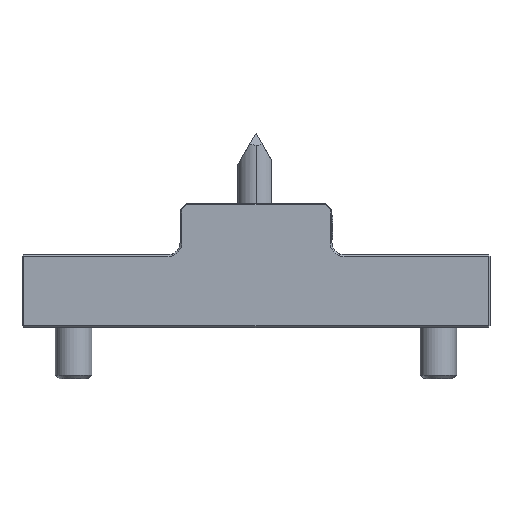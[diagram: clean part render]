
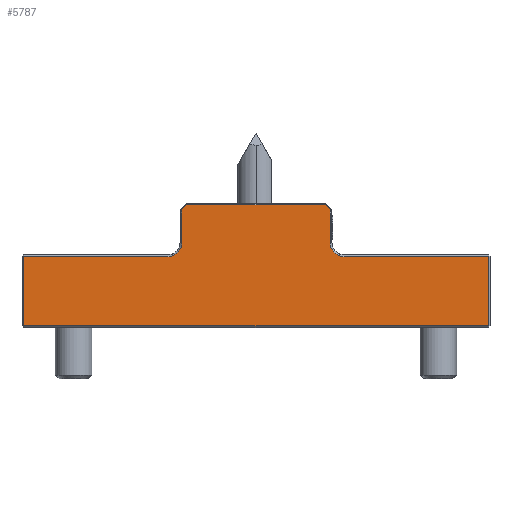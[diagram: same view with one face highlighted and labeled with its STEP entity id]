
A CAD part, front view. The second image highlights one B-rep face of the part: STEP entity #5787.
In plain terms, the highlighted planar face has unit normal (0, -1, 0).
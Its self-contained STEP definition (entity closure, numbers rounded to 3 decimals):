
#13 = AXIS2_PLACEMENT_3D ( 'NONE', #4653, #4654, #4655 ) ;
#16 = VECTOR ( 'NONE', #4613, 1000. ) ;
#40 = VECTOR ( 'NONE', #4610, 1000. ) ;
#55 = VECTOR ( 'NONE', #4578, 1000. ) ;
#65 = VECTOR ( 'NONE', #4603, 1000. ) ;
#74 = VECTOR ( 'NONE', #4686, 1000. ) ;
#77 = VECTOR ( 'NONE', #4689, 1000. ) ;
#81 = VECTOR ( 'NONE', #4676, 1000. ) ;
#84 = CIRCLE ( 'NONE', #13, 2.3 ) ;
#93 = AXIS2_PLACEMENT_3D ( 'NONE', #4732, #4733, #4734 ) ;
#95 = CIRCLE ( 'NONE', #93, 2.3 ) ;
#158 = ORIENTED_EDGE ( 'NONE', *, *, #4934, .T. ) ;
#165 = ORIENTED_EDGE ( 'NONE', *, *, #4933, .T. ) ;
#170 = ORIENTED_EDGE ( 'NONE', *, *, #4947, .T. ) ;
#207 = ORIENTED_EDGE ( 'NONE', *, *, #4950, .T. ) ;
#227 = ORIENTED_EDGE ( 'NONE', *, *, #5890, .T. ) ;
#245 = ORIENTED_EDGE ( 'NONE', *, *, #4931, .T. ) ;
#249 = ORIENTED_EDGE ( 'NONE', *, *, #4965, .T. ) ;
#251 = ORIENTED_EDGE ( 'NONE', *, *, #5887, .T. ) ;
#262 = EDGE_LOOP ( 'NONE', ( #249, #170, #245, #158, #251, #165, #284, #227, #5601, #264, #207, #322 ) ) ;
#264 = ORIENTED_EDGE ( 'NONE', *, *, #4922, .T. ) ;
#284 = ORIENTED_EDGE ( 'NONE', *, *, #4943, .T. ) ;
#322 = ORIENTED_EDGE ( 'NONE', *, *, #4951, .T. ) ;
#897 = CARTESIAN_POINT ( 'NONE',  ( -38.5, -13., 20.5 ) ) ;
#905 = FACE_OUTER_BOUND ( 'NONE', #262, .T. ) ;
#906 = PLANE ( 'NONE',  #5321 ) ;
#908 = DIRECTION ( 'NONE',  ( 0., 1., 0. ) ) ;
#909 = DIRECTION ( 'NONE',  ( 0., 0., 1. ) ) ;
#1366 = LINE ( 'NONE', #1367, #5570 ) ;
#1367 = CARTESIAN_POINT ( 'NONE',  ( -12.288, -13., 19.288 ) ) ;
#1368 = DIRECTION ( 'NONE',  ( -0.707, 0., -0.707 ) ) ;
#1369 = CARTESIAN_POINT ( 'NONE',  ( -38.5, -13., 11.7 ) ) ;
#1370 = LINE ( 'NONE', #1369, #5573 ) ;
#1378 = DIRECTION ( 'NONE',  ( -1., 0., 0. ) ) ;
#1395 = LINE ( 'NONE', #1396, #5581 ) ;
#1396 = CARTESIAN_POINT ( 'NONE',  ( -38.2, -13., 20.5 ) ) ;
#1397 = DIRECTION ( 'NONE',  ( 0., 0., -1. ) ) ;
#1794 = VERTEX_POINT ( 'NONE', #4277 ) ;
#1802 = VERTEX_POINT ( 'NONE', #4280 ) ;
#1825 = VERTEX_POINT ( 'NONE', #4292 ) ;
#1826 = VERTEX_POINT ( 'NONE', #4286 ) ;
#1830 = VERTEX_POINT ( 'NONE', #4294 ) ;
#1832 = VERTEX_POINT ( 'NONE', #4289 ) ;
#1861 = VERTEX_POINT ( 'NONE', #4307 ) ;
#1865 = VERTEX_POINT ( 'NONE', #4309 ) ;
#1905 = VERTEX_POINT ( 'NONE', #4325 ) ;
#1988 = VERTEX_POINT ( 'NONE', #4362 ) ;
#2045 = VERTEX_POINT ( 'NONE', #4404 ) ;
#2125 = VERTEX_POINT ( 'NONE', #4476 ) ;
#4277 = CARTESIAN_POINT ( 'NONE',  ( -12.2, -13., 14. ) ) ;
#4280 = CARTESIAN_POINT ( 'NONE',  ( 14.5, -13., 11.7 ) ) ;
#4286 = CARTESIAN_POINT ( 'NONE',  ( -12.2, -13., 19.376 ) ) ;
#4289 = CARTESIAN_POINT ( 'NONE',  ( 11.376, -13., 20.2 ) ) ;
#4292 = CARTESIAN_POINT ( 'NONE',  ( -14.5, -13., 11.7 ) ) ;
#4294 = CARTESIAN_POINT ( 'NONE',  ( 38.2, -13., 0.3 ) ) ;
#4307 = CARTESIAN_POINT ( 'NONE',  ( -11.376, -13., 20.2 ) ) ;
#4309 = CARTESIAN_POINT ( 'NONE',  ( -38.2, -13., 11.7 ) ) ;
#4325 = CARTESIAN_POINT ( 'NONE',  ( 12.2, -13., 14. ) ) ;
#4362 = CARTESIAN_POINT ( 'NONE',  ( 12.2, -13., 19.376 ) ) ;
#4404 = CARTESIAN_POINT ( 'NONE',  ( 38.2, -13., 11.7 ) ) ;
#4476 = CARTESIAN_POINT ( 'NONE',  ( -38.2, -13., 0.3 ) ) ;
#4566 = CARTESIAN_POINT ( 'NONE',  ( 38.5, -13., 0.3 ) ) ;
#4573 = LINE ( 'NONE', #4566, #55 ) ;
#4578 = DIRECTION ( 'NONE',  ( 1., 0., 0. ) ) ;
#4590 = CARTESIAN_POINT ( 'NONE',  ( 11.288, -13., 20.288 ) ) ;
#4598 = CARTESIAN_POINT ( 'NONE',  ( -12.2, -13., 20.5 ) ) ;
#4599 = LINE ( 'NONE', #4590, #65 ) ;
#4603 = DIRECTION ( 'NONE',  ( -0.707, 0., 0.707 ) ) ;
#4606 = LINE ( 'NONE', #4598, #40 ) ;
#4610 = DIRECTION ( 'NONE',  ( 0., 0., -1. ) ) ;
#4611 = LINE ( 'NONE', #4612, #16 ) ;
#4612 = CARTESIAN_POINT ( 'NONE',  ( -38.5, -13., 20.2 ) ) ;
#4613 = DIRECTION ( 'NONE',  ( -1., 0., 0. ) ) ;
#4653 = CARTESIAN_POINT ( 'NONE',  ( -14.5, -13., 14. ) ) ;
#4654 = DIRECTION ( 'NONE',  ( 0., 1., 0. ) ) ;
#4655 = DIRECTION ( 'NONE',  ( 0., 0., 1. ) ) ;
#4674 = LINE ( 'NONE', #4675, #81 ) ;
#4675 = CARTESIAN_POINT ( 'NONE',  ( 12.2, -13., 20.5 ) ) ;
#4676 = DIRECTION ( 'NONE',  ( 0., 0., 1. ) ) ;
#4677 = CARTESIAN_POINT ( 'NONE',  ( 38.2, -13., 20.5 ) ) ;
#4678 = LINE ( 'NONE', #4677, #74 ) ;
#4686 = DIRECTION ( 'NONE',  ( 0., 0., 1. ) ) ;
#4687 = LINE ( 'NONE', #4688, #77 ) ;
#4688 = CARTESIAN_POINT ( 'NONE',  ( 14.5, -13., 11.7 ) ) ;
#4689 = DIRECTION ( 'NONE',  ( -1., 0., 0. ) ) ;
#4732 = CARTESIAN_POINT ( 'NONE',  ( 14.5, -13., 14. ) ) ;
#4733 = DIRECTION ( 'NONE',  ( 0., 1., 0. ) ) ;
#4734 = DIRECTION ( 'NONE',  ( 0., 0., 1. ) ) ;
#4922 = EDGE_CURVE ( 'NONE', #2125, #1830, #4573, .T. ) ;
#4931 = EDGE_CURVE ( 'NONE', #1988, #1832, #4599, .T. ) ;
#4933 = EDGE_CURVE ( 'NONE', #1826, #1794, #4606, .T. ) ;
#4934 = EDGE_CURVE ( 'NONE', #1832, #1861, #4611, .T. ) ;
#4943 = EDGE_CURVE ( 'NONE', #1794, #1825, #84, .T. ) ;
#4947 = EDGE_CURVE ( 'NONE', #1905, #1988, #4674, .T. ) ;
#4950 = EDGE_CURVE ( 'NONE', #1830, #2045, #4678, .T. ) ;
#4951 = EDGE_CURVE ( 'NONE', #2045, #1802, #4687, .T. ) ;
#4965 = EDGE_CURVE ( 'NONE', #1802, #1905, #95, .T. ) ;
#5321 = AXIS2_PLACEMENT_3D ( 'NONE', #897, #908, #909 ) ;
#5570 = VECTOR ( 'NONE', #1368, 1000. ) ;
#5573 = VECTOR ( 'NONE', #1378, 1000. ) ;
#5581 = VECTOR ( 'NONE', #1397, 1000. ) ;
#5601 = ORIENTED_EDGE ( 'NONE', *, *, #5896, .T. ) ;
#5787 = ADVANCED_FACE ( 'NONE', ( #905 ), #906, .F. ) ;
#5887 = EDGE_CURVE ( 'NONE', #1861, #1826, #1366, .T. ) ;
#5890 = EDGE_CURVE ( 'NONE', #1825, #1865, #1370, .T. ) ;
#5896 = EDGE_CURVE ( 'NONE', #1865, #2125, #1395, .T. ) ;
